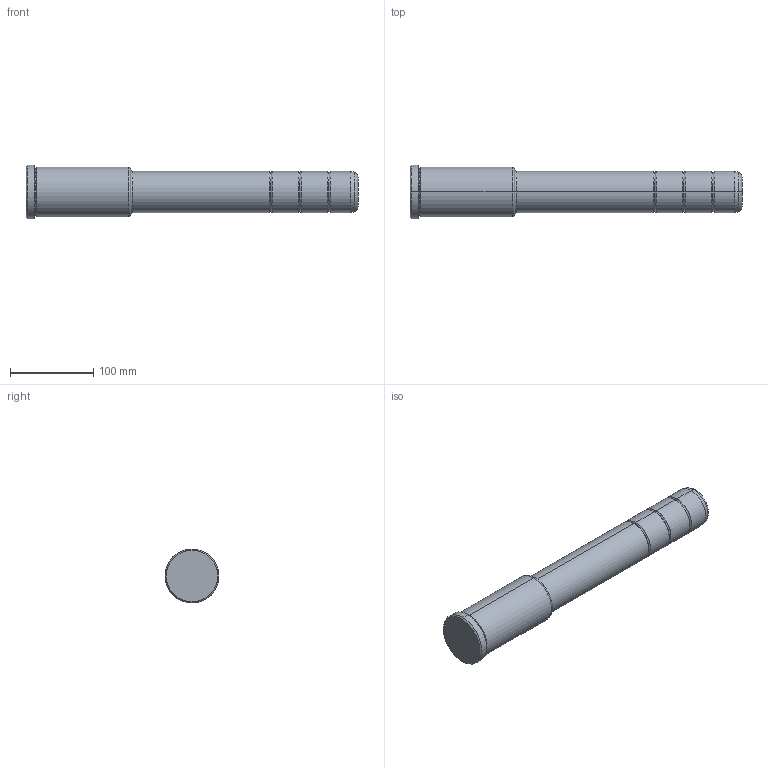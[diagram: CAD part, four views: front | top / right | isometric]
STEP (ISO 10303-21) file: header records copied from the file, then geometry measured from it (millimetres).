
FILE_DESCRIPTION(('CATIA V5 STEP Exchange'),'2;1');
FILE_NAME('C:\Users\Utente\Desktop\IO LAVORO\3D X SITO CF\X SITO\PLASTICA\351\351-50X126X400.stp','2021-11-03T19:28:51+00:00',('none'),('none'),'CATIA Version 5 Release 20 GA (IN-10)','CATIA V5 STEP AP203','none');
FILE_SCHEMA(('CONFIG_CONTROL_DESIGN'));
Length unit declared in the file: millimetre
Products named in the file (1): 351-50X126X400
Bounding box: 400 x 65 x 65 mm (x, y, z)
Volume: 894235.6 mm3; surface area: 73454.8 mm2
Topology: 1 solids, 1 shells, 41 faces, 114 edges, 76 vertices
Faces by surface type: torus 22, cylinder 12, cone 4, plane 3
Entity records: 1378 total; most frequent: CARTESIAN_POINT 288, ORIENTED_EDGE 228, DIRECTION 192, AXIS2_PLACEMENT_3D 136, EDGE_CURVE 114, CIRCLE 94, VERTEX_POINT 76, EDGE_LOOP 42
